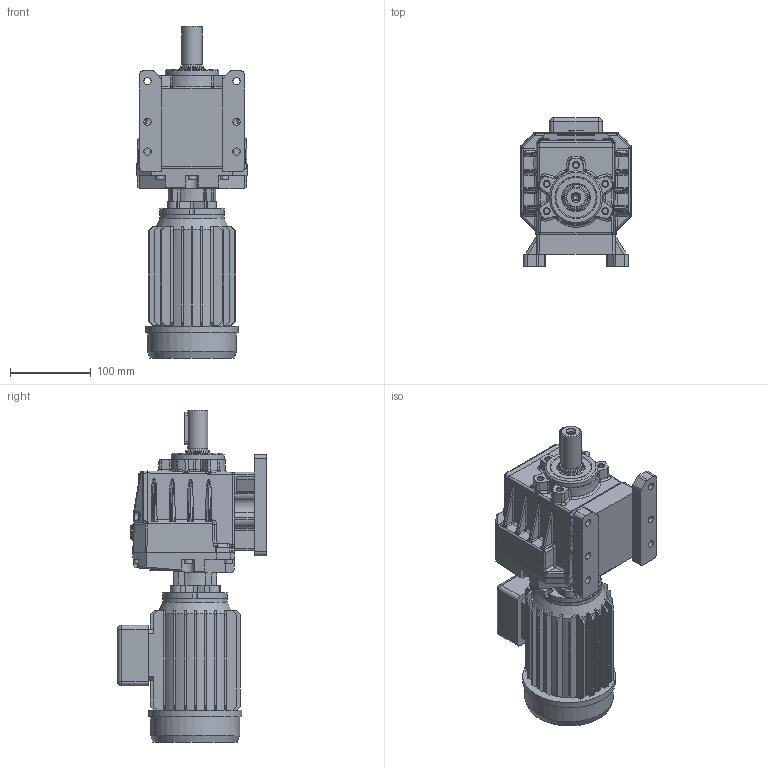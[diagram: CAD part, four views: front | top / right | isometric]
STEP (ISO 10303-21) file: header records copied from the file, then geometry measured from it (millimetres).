
FILE_DESCRIPTION( ( 'Unknown' ), '1' );
FILE_NAME( 'E:/services/configuratordownloads/customers/HYDROMEC/COASSIALI/download/9DA31DA5479FB11ABD861EA4AFD3C96/STEP/9DA31DA5479FB11ABD861EA4AFD3C96.3d.stp', 'Unknown', ( 'Unknown' ), ( 'Unknown' ), 'PSStep 10.1', 'Unknown', ' ' );
FILE_SCHEMA( ( 'AUTOMOTIVE_DESIGN { 1 0 10303 214 1 1 1 1 }' ) );
Length unit declared in the file: millimetre
Products named in the file (1): C418800
Bounding box: 136.8 x 184.17 x 411 mm (x, y, z)
Volume: 3780302.6 mm3; surface area: 303562.1 mm2
Topology: 1 solids, 19 shells, 1348 faces, 3379 edges, 2138 vertices
Faces by surface type: plane 767, cylinder 333, bspline 164, cone 47, torus 26, sphere 6, extrusion 5
Full cylindrical faces by diameter (mm): 4.2 x8, 4.917 x4, 6.5 x1, 6.647 x6, 7 x12, 8.376 x4, 8.4 x1, 9 x6, 9.9 x12, 10 x4, 11 x6, 12.5 x4, 13.5 x1, 18 x1, 19 x1, 22 x1, 24.6 x1, 25 x2, 30 x2, 40 x2, 66 x1, 80 x1, 93.146 x1, 110 x1, 115 x1
Entity records: 59850 total; most frequent: CARTESIAN_POINT 18978, ORIENTED_EDGE 6312, DIRECTION 5728, EDGE_CURVE 3156, VERTEX_POINT 2078, AXIS2_PLACEMENT_3D 1921, VECTOR 1886, LINE 1881
